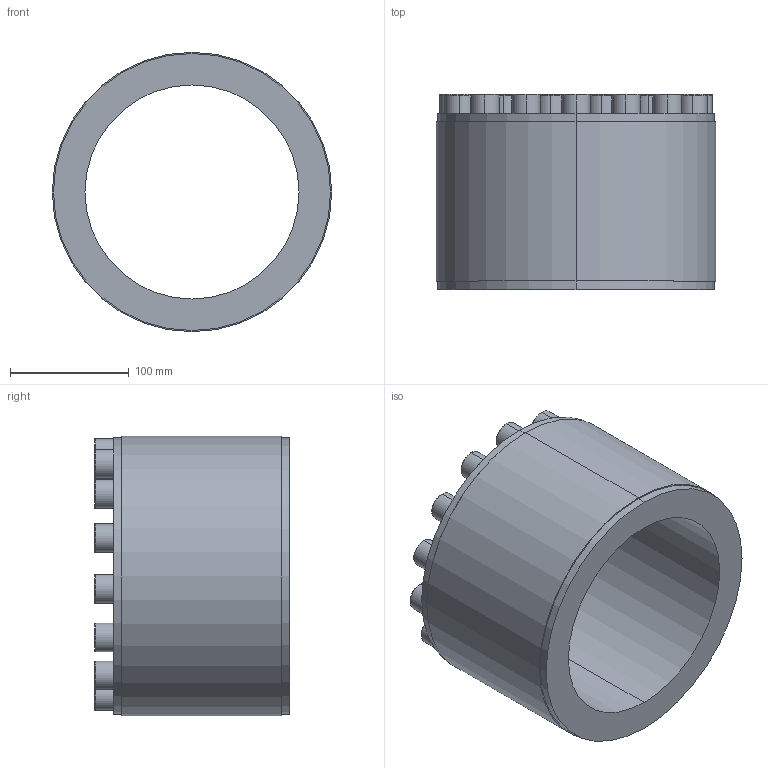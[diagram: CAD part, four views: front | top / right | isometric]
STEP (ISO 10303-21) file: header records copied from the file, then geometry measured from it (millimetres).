
FILE_DESCRIPTION (( 'STEP AP203' ), '1' );
FILE_NAME ('PL-D1 180-235.STEP', '2021-10-23T00:20:32', ( '' ), ( '' ), 'SwSTEP 2.0', 'SolidWorks 2018', '' );
FILE_SCHEMA (( 'CONFIG_CONTROL_DESIGN' ));
Length unit declared in the file: millimetre
Products named in the file (1): PL-D1 180-235
Bounding box: 235 x 164 x 235 mm (x, y, z)
Volume: 2731006.1 mm3; surface area: 252393 mm2
Topology: 1 solids, 1 shells, 192 faces, 444 edges, 286 vertices
Faces by surface type: plane 124, cylinder 38, torus 30
Entity records: 5505 total; most frequent: DIRECTION 966, CARTESIAN_POINT 923, ORIENTED_EDGE 888, EDGE_CURVE 444, AXIS2_PLACEMENT_3D 329, VECTOR 308, LINE 308, VERTEX_POINT 286
